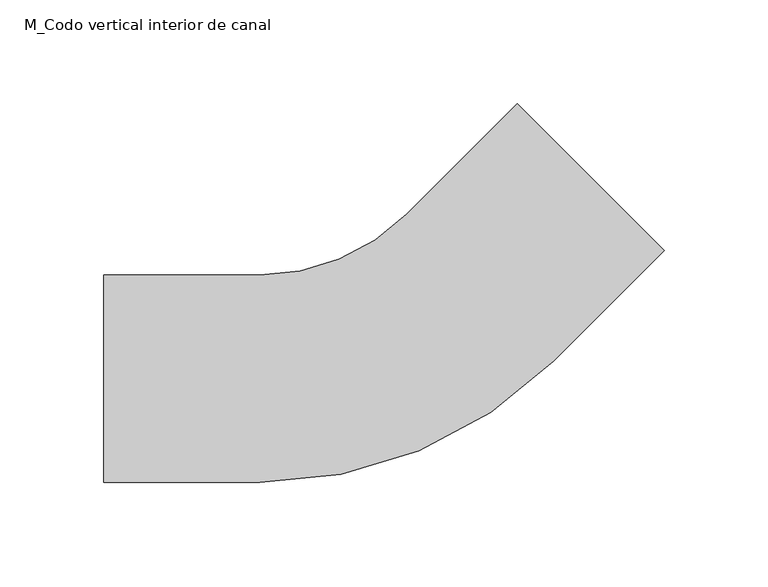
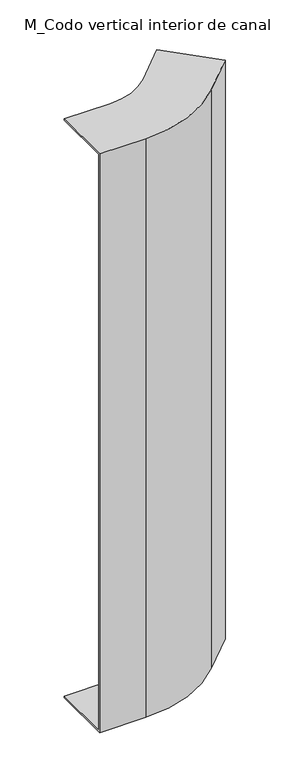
"""IFC4 building model written with IfcOpenShell, lengths in millimetres: cable carrier fitting geometry, M_Codo vertical interior de canal : Gasos."""

from ifc_helpers import new_model, si_unit, frame, origin, place, context, project, spatial, polyline, circle_curve, source, transform, mapped, element, save
from ifc_brep_helpers import plane_surface, cylinder_surface, revolved_surface, advanced_brep


def m_codo_vertical_interior_de_canal_8c56ce5f(model_context):
    return source(origin(), model_context, "Body", "AdvancedBrep", [
        advanced_brep(
        [(-137.1320344, 50.0, 500.0), (-137.1320344, 50.0, 497.46), (-137.1320344, -47.46, 497.46), (-137.1320344, -47.46, -497.46), (-137.1320344, 50.0, -497.46), (-137.1320344, 50.0, -500.0), (-137.1320344, -50.0, -500.0), (-137.1320344, -50.0, 500.0), (61.6116524, 132.3223305, 500.0), (132.3223305, 61.6116524, 500.0), (132.3223305, 61.6116524, -500.0), (61.6116524, 132.3223305, -500.0), (61.6116524, 132.3223305, -497.46), (130.5262793, 63.4077036, -497.46), (130.5262793, 63.4077036, 497.46), (61.6116524, 132.3223305, 497.46), (-62.1320344, -50.0, 500.0), (79.2893219, 8.5786438, 500.0), (8.5786438, 79.2893219, 500.0), (-62.1320344, 50.0, 500.0), (-62.1320344, -50.0, -500.0), (-62.1320344, 50.0, -500.0), (8.5786438, 79.2893219, -500.0), (79.2893219, 8.5786438, -500.0), (-62.1320344, 50.0, -497.46), (-62.1320344, -47.46, -497.46), (77.4932707, 10.374695, -497.46), (8.5786438, 79.2893219, -497.46), (-62.1320344, -47.46, 497.46), (-62.1320344, 50.0, 497.46), (8.5786438, 79.2893219, 497.46), (77.4932707, 10.374695, 497.46)],
        [
            (0, 1),
            (1, 2),
            (2, 3),
            (3, 4),
            (4, 5),
            (5, 6),
            (6, 7),
            (7, 0),
            (8, 9),
            (9, 10),
            (10, 11),
            (11, 12),
            (12, 13),
            (13, 14),
            (14, 15),
            (15, 8),
            (7, 16),
            (16, 17, circle_curve(frame((-62.1320344, 150.0, 500.0), z_axis=(0.0, 0.0, 1.0), x_axis=(0.0, -1.0, 0.0)), 200.0)),
            (17, 9),
            (8, 18),
            (18, 19, circle_curve(frame((-62.1320344, 150.0, 500.0), z_axis=(0.0, 0.0, -1.0), x_axis=(0.0, -1.0, 0.0)), 100.0)),
            (19, 0),
            (6, 20),
            (20, 16),
            (5, 21),
            (21, 22, circle_curve(frame((-62.1320344, 150.0, -500.0), z_axis=(0.0, 0.0, 1.0), x_axis=(0.0, -1.0, 0.0)), 100.0)),
            (22, 11),
            (10, 23),
            (23, 20, circle_curve(frame((-62.1320344, 150.0, -500.0), z_axis=(0.0, 0.0, -1.0), x_axis=(0.0, -1.0, 0.0)), 200.0)),
            (4, 24),
            (24, 21),
            (3, 25),
            (25, 26, circle_curve(frame((-62.1320344, 150.0, -497.46), z_axis=(0.0, 0.0, 1.0), x_axis=(0.0, -1.0, 0.0)), 197.46)),
            (26, 13),
            (12, 27),
            (27, 24, circle_curve(frame((-62.1320344, 150.0, -497.46), z_axis=(0.0, 0.0, -1.0), x_axis=(0.0, -1.0, 0.0)), 100.0)),
            (2, 28),
            (28, 25),
            (1, 29),
            (29, 30, circle_curve(frame((-62.1320344, 150.0, 497.46), z_axis=(0.0, 0.0, 1.0), x_axis=(0.0, -1.0, 0.0)), 100.0)),
            (30, 15),
            (14, 31),
            (31, 28, circle_curve(frame((-62.1320344, 150.0, 497.46), z_axis=(0.0, 0.0, -1.0), x_axis=(0.0, -1.0, 0.0)), 197.46)),
            (19, 29),
            (23, 17),
            (27, 22),
            (31, 26),
            (18, 30),
        ],
        [
            plane_surface(frame((-137.1320344, 0.0, 0.0), z_axis=(-1.0, 0.0, 0.0), x_axis=(0.0, 0.0, 1.0))),
            plane_surface(frame((96.9669914, 96.9669914, 0.0), z_axis=(0.7071067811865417, 0.7071067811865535, 0.0), x_axis=(0.0, 0.0, 1.0))),
            plane_surface(frame((-137.1320344, -50.0, 500.0), z_axis=(0.0, 0.0, 1.0), x_axis=(1.0, 0.0, 0.0))),
            plane_surface(frame((-137.1320344, -50.0, -500.0), z_axis=(0.0, -1.0, 0.0), x_axis=(1.0, 0.0, 0.0))),
            plane_surface(frame((-137.1320344, 50.0, -500.0), z_axis=(0.0, 0.0, -1.0), x_axis=(1.0, 0.0, 0.0))),
            plane_surface(frame((-137.1320344, 50.0, -497.46), z_axis=(0.0, 1.0, 0.0), x_axis=(1.0, 0.0, 0.0))),
            plane_surface(frame((-137.1320344, -47.46, -497.46), z_axis=(0.0, 0.0, 1.0), x_axis=(1.0, 0.0, 0.0))),
            plane_surface(frame((-137.1320344, -47.46, 497.46), z_axis=(0.0, 1.0, 0.0), x_axis=(1.0, 0.0, 0.0))),
            plane_surface(frame((-137.1320344, 50.0, 497.46), z_axis=(0.0, 0.0, -1.0), x_axis=(1.0, 0.0, 0.0))),
            plane_surface(frame((-137.1320344, 50.0, 500.0), z_axis=(0.0, 1.0, 0.0), x_axis=(1.0, 0.0, 0.0))),
            cylinder_surface(frame((-62.1320344, 150.0, 0.0), z_axis=(0.0, 0.0, 1.0), x_axis=(0.0, -1.0, 0.0)), 200.0),
            revolved_surface(polyline([(-62.1320344, 50.0, -497.46), (-62.1320344, 50.0, -500.0)]), (-62.1320344, 150.0, 0.0), (0.0, 0.0, 1.0)),
            revolved_surface(polyline([(-62.1320344, -47.46000000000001, 497.46), (-62.1320344, -47.46000000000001, -497.46)]), (-62.1320344, 150.0, 0.0), (0.0, 0.0, 1.0)),
            revolved_surface(polyline([(-62.1320344, 50.0, 500.0), (-62.1320344, 50.0, 497.46)]), (-62.1320344, 150.0, 0.0), (0.0, 0.0, 1.0)),
            plane_surface(frame((79.2893219, 8.5786438, -500.0), z_axis=(0.707106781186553, -0.7071067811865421, 0.0), x_axis=(0.7071067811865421, 0.707106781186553, 0.0))),
            plane_surface(frame((8.5786438, 79.2893219, -497.46), z_axis=(-0.7071067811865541, 0.707106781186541, 0.0), x_axis=(0.707106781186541, 0.7071067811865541, 0.0))),
            plane_surface(frame((77.4932707, 10.374695, 497.46), z_axis=(-0.7071067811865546, 0.7071067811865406, 0.0), x_axis=(0.7071067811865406, 0.7071067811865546, 0.0))),
            plane_surface(frame((8.5786438, 79.2893219, 500.0), z_axis=(-0.7071067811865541, 0.707106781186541, 0.0), x_axis=(0.707106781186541, 0.7071067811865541, 0.0))),
        ],
        [
            (0, [[1, 2, 3, 4, 5, 6, 7, 8]]),
            (1, [[9, 10, 11, 12, 13, 14, 15, 16]]),
            (2, [[-8, 17, 18, 19, -9, 20, 21, 22]]),
            (3, [[-7, 23, 24, -17]]),
            (4, [[-6, 25, 26, 27, -11, 28, 29, -23]]),
            (5, [[-5, 30, 31, -25]]),
            (6, [[-4, 32, 33, 34, -13, 35, 36, -30]]),
            (7, [[-3, 37, 38, -32]]),
            (8, [[-2, 39, 40, 41, -15, 42, 43, -37]]),
            (9, [[-1, -22, 44, -39]]),
            (10, [[-18, -24, -29, 45]]),
            (11, [[-26, -31, -36, 46]]),
            (12, [[-33, -38, -43, 47]]),
            (13, [[-40, -44, -21, 48]]),
            (14, [[-45, -28, -10, -19]]),
            (15, [[-46, -35, -12, -27]]),
            (16, [[-47, -42, -14, -34]]),
            (17, [[-48, -20, -16, -41]]),
        ],
    ),
    ])


if __name__ == "__main__":
    model = new_model("IFC4")
    model_context = context("Model", 3, world=origin())
    ifc_project = project(units=[si_unit("LENGTHUNIT", "METRE", prefix="MILLI")], contexts=[model_context])
    site = spatial("IfcSite", under=ifc_project)
    building = spatial("IfcBuilding", under=site)
    placement = place(None, origin())
    m_codo_vertical_interior_de_canal_shape = m_codo_vertical_interior_de_canal_8c56ce5f(model_context)
    element("IfcCableCarrierFitting", 1, ObjectType="M_Codo vertical interior de canal : Gasos", at=placement, inside=building, context=model_context, shape_type="MappedRepresentation", body=[
        mapped(m_codo_vertical_interior_de_canal_shape, transform((0.0, 0.0, 0.0), x_axis=(1.0, 0.0, 0.0), y_axis=(0.0, 1.0, 0.0), z_axis=(0.0, 0.0, 1.0))),
    ])
    save(model, "model.ifc")
